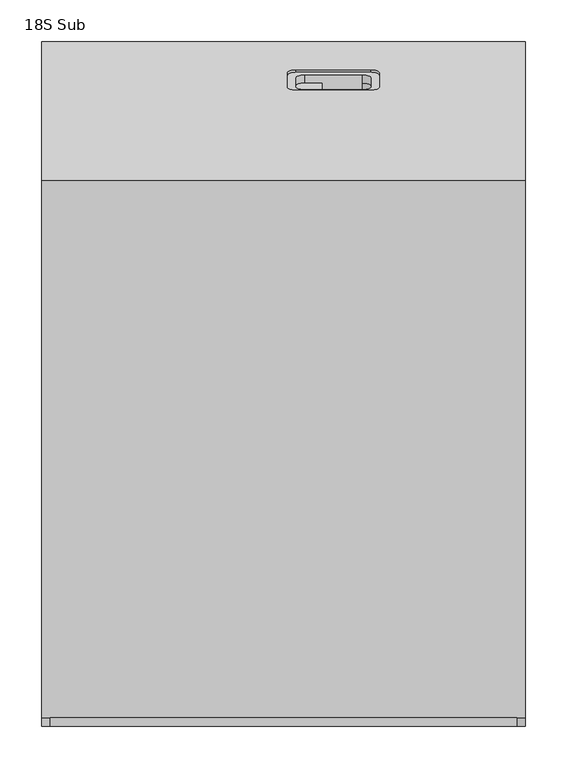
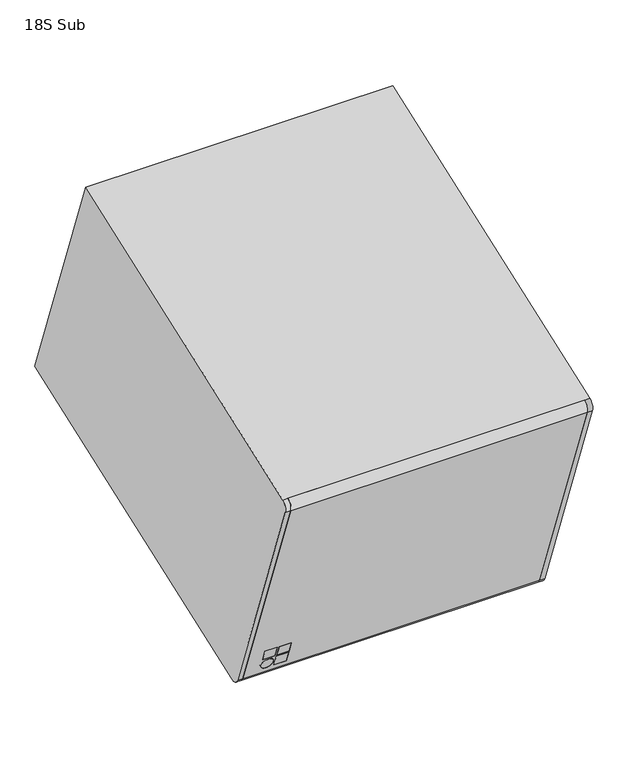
"""IFC4 building model written with IfcOpenShell, lengths in millimetres: proxy geometry, d&b xS-Series 18S Subwoofer : 18S Sub."""

from ifc_helpers import new_model, si_unit, point, frame, frame_2d, origin, place, context, project, spatial, polyline, circle_curve, trimmed, segment, composite_curve, outline, extrude, source, transform, mapped, element, save
from ifc_brep_helpers import plane_surface, cylinder_surface, revolved_surface, advanced_brep


def proxy_18s_sub_96205f55(model_context):
    return source(origin(), model_context, "Body", "SolidModel", [
        extrude(outline(composite_curve([segment(trimmed(circle_curve(frame_2d((0.0, -18.25)), 18.25), [point((0.0, -36.5))], [point((0.0, 0.0))], False, "CARTESIAN"), True, "CONTINUOUS"), segment(trimmed(circle_curve(frame_2d((0.0, -18.25)), 18.25), [point((0.0, 0.0))], [point((0.0, -36.5))], False, "CARTESIAN"), True, "CONTINUOUS")], self_intersect=False)), frame((-238.25, 372.96461, -127.1038933), z_axis=(0.0, -0.34202014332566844, 0.9396926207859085), x_axis=(0.0, 0.9396926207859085, 0.34202014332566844)), (0.0, 0.0, 1.0), 3.0),
        extrude(outline(composite_curve([segment(trimmed(circle_curve(frame_2d((0.0, -458.25)), 18.25), [point((0.0, -476.5))], [point((0.0, -440.0))], False, "CARTESIAN"), True, "CONTINUOUS"), segment(trimmed(circle_curve(frame_2d((0.0, -458.25)), 18.25), [point((0.0, -440.0))], [point((0.0, -476.5))], False, "CARTESIAN"), True, "CONTINUOUS")], self_intersect=False)), frame((-238.25, 372.96461, -127.1038933), z_axis=(0.0, -0.34202014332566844, 0.9396926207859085), x_axis=(0.0, 0.9396926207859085, 0.34202014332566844)), (0.0, 0.0, 1.0), 3.0),
        extrude(outline(composite_curve([segment(trimmed(circle_curve(frame_2d((-595.0, -18.25)), 18.25), [point((-595.0, -36.5))], [point((-595.0, 0.0))], False, "CARTESIAN"), True, "CONTINUOUS"), segment(trimmed(circle_curve(frame_2d((-595.0, -18.25)), 18.25), [point((-595.0, 0.0))], [point((-595.0, -36.5))], False, "CARTESIAN"), True, "CONTINUOUS")], self_intersect=False)), frame((-238.25, 372.96461, -127.1038933), z_axis=(0.0, -0.34202014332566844, 0.9396926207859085), x_axis=(0.0, 0.9396926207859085, 0.34202014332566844)), (0.0, 0.0, 1.0), 3.0),
        extrude(outline(composite_curve([segment(trimmed(circle_curve(frame_2d((-595.0, -458.25)), 18.25), [point((-595.0, -476.5))], [point((-595.0, -440.0))], False, "CARTESIAN"), True, "CONTINUOUS"), segment(trimmed(circle_curve(frame_2d((-595.0, -458.25)), 18.25), [point((-595.0, -440.0))], [point((-595.0, -476.5))], False, "CARTESIAN"), True, "CONTINUOUS")], self_intersect=False)), frame((-238.25, 372.96461, -127.1038933), z_axis=(0.0, -0.34202014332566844, 0.9396926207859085), x_axis=(0.0, 0.9396926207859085, 0.34202014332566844)), (0.0, 0.0, 1.0), 3.0),
        advanced_brep(
        [(280.0, -253.3888823, -335.9227208), (280.0, -234.1631909, -344.8878079), (280.0, -235.8732916, -340.1893448), (280.0, -248.6904192, -334.21262), (280.0, -405.3356449, 96.1666003), (280.0, -399.3589201, 108.9837279), (280.0, -401.0690208, 113.682191), (280.0, -410.034108, 94.4564996), (-280.0, -253.3888823, -335.9227208), (-280.0, -410.034108, 94.4564996), (-280.0, -401.0690208, 113.682191), (-280.0, -399.3589201, 108.9837279), (-280.0, -405.3356449, 96.1666003), (-280.0, -248.6904192, -334.21262), (-280.0, -235.8732916, -340.1893448), (-280.0, -234.1631909, -344.8878079), (-226.6666667, -273.9100909, -279.5411635), (-226.6666667, -265.9296209, -301.4673247), (-250.0, -265.9296209, -301.4673247), (-250.0, -273.9100909, -279.5411635), (-200.0, -273.9100909, -279.5411635), (-200.0, -265.9296209, -301.4673247), (-223.3333333, -265.9296209, -301.4673247), (-223.3333333, -273.9100909, -279.5411635), (-200.0, -264.7895538, -304.5996334), (-200.0, -256.8090837, -326.5257945), (-223.3333333, -256.8090837, -326.5257945), (-223.3333333, -264.7895538, -304.5996334), (-238.3333333, -256.8090837, -326.5257945), (-238.3333333, -264.7895538, -304.5996334), (-226.6666667, -261.2311578, -299.7572239), (-226.6666667, -269.2116278, -277.8310628), (-250.0, -269.2116278, -277.8310628), (-250.0, -261.2311578, -299.7572239), (-200.0, -261.2311578, -299.7572239), (-200.0, -269.2116278, -277.8310628), (-223.3333333, -269.2116278, -277.8310628), (-223.3333333, -261.2311578, -299.7572239), (-200.0, -252.1106206, -324.8156938), (-200.0, -260.0910907, -302.8895327), (-223.3333333, -260.0910907, -302.8895327), (-223.3333333, -252.1106206, -324.8156938), (-238.3333333, -260.0910907, -302.8895327), (-238.3333333, -252.1106206, -324.8156938)],
        [
            (0, 1, circle_curve(frame((280.0, -239.293493, -330.7924186), z_axis=(1.0, 0.0, 0.0), x_axis=(0.0, 0.9396926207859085, 0.34202014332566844)), 15.0)),
            (1, 2),
            (2, 3, circle_curve(frame((280.0, -239.293493, -330.7924186), z_axis=(-1.0, 0.0, 0.0), x_axis=(0.0, 0.9396926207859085, 0.34202014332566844)), 10.0)),
            (3, 4),
            (4, 5, circle_curve(frame((280.0, -395.9387186, 99.5868017), z_axis=(-1.0, 0.0, 0.0), x_axis=(0.0, 0.9396926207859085, 0.34202014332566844)), 10.0)),
            (5, 6),
            (6, 7, circle_curve(frame((280.0, -395.9387186, 99.5868017), z_axis=(1.0, 0.0, 0.0), x_axis=(0.0, 0.9396926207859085, 0.34202014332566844)), 15.0)),
            (7, 0),
            (8, 9),
            (9, 10, circle_curve(frame((-280.0, -395.9387186, 99.5868017), z_axis=(-1.0, 0.0, 0.0), x_axis=(0.0, 0.9396926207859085, 0.34202014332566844)), 15.0)),
            (10, 11),
            (11, 12, circle_curve(frame((-280.0, -395.9387186, 99.5868017), z_axis=(1.0, 0.0, 0.0), x_axis=(0.0, 0.9396926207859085, 0.34202014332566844)), 10.0)),
            (12, 13),
            (13, 14, circle_curve(frame((-280.0, -239.293493, -330.7924186), z_axis=(1.0, 0.0, 0.0), x_axis=(0.0, 0.9396926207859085, 0.34202014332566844)), 10.0)),
            (14, 15),
            (15, 8, circle_curve(frame((-280.0, -239.293493, -330.7924186), z_axis=(-1.0, 0.0, 0.0), x_axis=(0.0, 0.9396926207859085, 0.34202014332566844)), 15.0)),
            (6, 10),
            (9, 7),
            (8, 0),
            (16, 17),
            (17, 18),
            (18, 19),
            (19, 16),
            (20, 21),
            (21, 22),
            (22, 23),
            (23, 20),
            (24, 25),
            (25, 26),
            (26, 27),
            (27, 24),
            (28, 29, circle_curve(frame((-238.3333333, -260.7993188, -315.562714), z_axis=(0.0, 0.939692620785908, 0.34202014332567), x_axis=(0.0, -0.34202014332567, 0.939692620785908)), 11.6666667)),
            (29, 28, circle_curve(frame((-238.3333333, -260.7993188, -315.562714), z_axis=(0.0, 0.939692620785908, 0.34202014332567), x_axis=(0.0, -0.34202014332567, 0.939692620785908)), 11.6666667)),
            (15, 1),
            (14, 2),
            (13, 3),
            (12, 4),
            (30, 31),
            (31, 32),
            (32, 33),
            (33, 30),
            (34, 35),
            (35, 36),
            (36, 37),
            (37, 34),
            (38, 39),
            (39, 40),
            (40, 41),
            (41, 38),
            (42, 43, circle_curve(frame((-238.3333333, -256.1008557, -313.8526133), z_axis=(0.0, -0.939692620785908, -0.34202014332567), x_axis=(0.0, -0.34202014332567, 0.939692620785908)), 11.6666667)),
            (43, 42, circle_curve(frame((-238.3333333, -256.1008557, -313.8526133), z_axis=(0.0, -0.939692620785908, -0.34202014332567), x_axis=(0.0, -0.34202014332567, 0.939692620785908)), 11.6666667)),
            (11, 5),
            (16, 31),
            (30, 17),
            (33, 18),
            (32, 19),
            (20, 35),
            (34, 21),
            (37, 22),
            (36, 23),
            (24, 39),
            (38, 25),
            (41, 26),
            (40, 27),
            (28, 43),
            (42, 29),
        ],
        [
            plane_surface(frame((280.0, -225.1981037, -325.6621165), z_axis=(1.0, 0.0, 0.0), x_axis=(0.0, -0.34202014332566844, 0.9396926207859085))),
            plane_surface(frame((-280.0, -225.1981037, -325.6621165), z_axis=(-1.0, 0.0, 0.0), x_axis=(0.0, 0.34202014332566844, -0.9396926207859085))),
            cylinder_surface(frame((-280.0, -395.9387186, 99.5868017), z_axis=(1.0, 0.0, 0.0), x_axis=(0.0, 0.9396926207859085, 0.34202014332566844)), 15.0),
            plane_surface(frame((280.0, -410.034108, 94.4564996), z_axis=(0.0, -0.9396926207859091, -0.3420201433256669), x_axis=(-1.0, 0.0, 0.0))),
            cylinder_surface(frame((-280.0, -239.293493, -330.7924186), z_axis=(1.0, 0.0, 0.0), x_axis=(0.0, 0.9396926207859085, 0.34202014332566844)), 15.0),
            plane_surface(frame((280.0, -234.1631909, -344.8878079), z_axis=(0.0, 0.9396926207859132, 0.3420201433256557), x_axis=(-1.0, 0.0, 0.0))),
            revolved_surface(polyline([(-280.0, -229.89656679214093, -327.3722171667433), (280.0, -229.89656679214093, -327.3722171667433)]), (-280.0, -239.293493, -330.7924186), (-1.0, 0.0, 0.0)),
            plane_surface(frame((280.0, -248.6904192, -334.21262), z_axis=(0.0, 0.9396926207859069, 0.34202014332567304), x_axis=(-1.0, 0.0, 0.0))),
            revolved_surface(polyline([(-280.0, -386.5417923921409, 103.00700313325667), (280.0, -386.5417923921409, 103.00700313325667)]), (-280.0, -395.9387186, 99.5868017), (-1.0, 0.0, 0.0)),
            plane_surface(frame((280.0, -399.3589201, 108.9837279), z_axis=(0.0, 0.9396926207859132, 0.3420201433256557), x_axis=(-1.0, 0.0, 0.0))),
            plane_surface(frame((-226.6666667, -265.9296209, -301.4673247), z_axis=(-1.0, 0.0, 0.0), x_axis=(0.0, 0.9396926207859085, 0.34202014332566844))),
            plane_surface(frame((-250.0, -265.9296209, -301.4673247), z_axis=(0.0, -0.34202014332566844, 0.9396926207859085), x_axis=(0.0, 0.9396926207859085, 0.34202014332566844))),
            plane_surface(frame((-250.0, -273.9100909, -279.5411635), z_axis=(1.0, 0.0, 0.0), x_axis=(0.0, 0.9396926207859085, 0.34202014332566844))),
            plane_surface(frame((-226.6666667, -273.9100909, -279.5411635), z_axis=(0.0, 0.34202014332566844, -0.9396926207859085), x_axis=(0.0, 0.9396926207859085, 0.34202014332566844))),
            plane_surface(frame((-200.0, -265.9296209, -301.4673247), z_axis=(-1.0, 0.0, 0.0), x_axis=(0.0, 0.9396926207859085, 0.34202014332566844))),
            plane_surface(frame((-223.3333333, -265.9296209, -301.4673247), z_axis=(0.0, -0.34202014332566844, 0.9396926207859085), x_axis=(0.0, 0.9396926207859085, 0.34202014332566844))),
            plane_surface(frame((-223.3333333, -273.9100909, -279.5411635), z_axis=(1.0, 0.0, 0.0), x_axis=(0.0, 0.9396926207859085, 0.34202014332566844))),
            plane_surface(frame((-200.0, -273.9100909, -279.5411635), z_axis=(0.0, 0.34202014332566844, -0.9396926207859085), x_axis=(0.0, 0.9396926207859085, 0.34202014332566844))),
            plane_surface(frame((-200.0, -256.8090837, -326.5257945), z_axis=(-1.0, 0.0, 0.0), x_axis=(0.0, 0.9396926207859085, 0.34202014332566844))),
            plane_surface(frame((-223.3333333, -256.8090837, -326.5257945), z_axis=(0.0, -0.34202014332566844, 0.9396926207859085), x_axis=(0.0, 0.9396926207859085, 0.34202014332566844))),
            plane_surface(frame((-223.3333333, -264.7895538, -304.5996334), z_axis=(1.0, 0.0, 0.0), x_axis=(0.0, 0.9396926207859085, 0.34202014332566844))),
            plane_surface(frame((-200.0, -264.7895538, -304.5996334), z_axis=(0.0, 0.34202014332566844, -0.9396926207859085), x_axis=(0.0, 0.9396926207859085, 0.34202014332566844))),
            revolved_surface(polyline([(-238.3333333, -264.7895538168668, -304.5996333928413), (-238.3333333, -260.09109061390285, -302.8895326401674)]), (-238.3333333, -260.7993188, -315.562714), (0.0, -0.939692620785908, -0.34202014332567)),
        ],
        [
            (0, [[1, 2, 3, 4, 5, 6, 7, 8]]),
            (1, [[9, 10, 11, 12, 13, 14, 15, 16]]),
            (2, [[-7, 17, -10, 18]]),
            (3, [[-8, -18, -9, 19], [20, 21, 22, 23], [24, 25, 26, 27], [28, 29, 30, 31], [32, 33]]),
            (4, [[-1, -19, -16, 34]]),
            (5, [[-2, -34, -15, 35]]),
            (6, [[-3, -35, -14, 36]]),
            (7, [[-4, -36, -13, 37], [38, 39, 40, 41], [42, 43, 44, 45], [46, 47, 48, 49], [50, 51]]),
            (8, [[-5, -37, -12, 52]]),
            (9, [[-6, -52, -11, -17]]),
            (10, [[53, -38, 54, -20]]),
            (11, [[-54, -41, 55, -21]]),
            (12, [[-55, -40, 56, -22]]),
            (13, [[-53, -23, -56, -39]]),
            (14, [[57, -42, 58, -24]]),
            (15, [[-58, -45, 59, -25]]),
            (16, [[-59, -44, 60, -26]]),
            (17, [[-57, -27, -60, -43]]),
            (18, [[61, -46, 62, -28]]),
            (19, [[-62, -49, 63, -29]]),
            (20, [[-63, -48, 64, -30]]),
            (21, [[-61, -31, -64, -47]]),
            (22, [[65, -50, 66, -32]]),
            (22, [[-65, -33, -66, -51]]),
        ],
    ),
        extrude(outline(polyline([(0.0, -23.3333333), (0.0, 0.0), (5.0, 0.0), (5.0, -23.3333333), (0.0, -23.3333333)])), frame((-250.0, -265.9296209, -301.4673247), z_axis=(0.0, -0.34202014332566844, 0.9396926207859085), x_axis=(0.0, 0.9396926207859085, 0.34202014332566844)), (0.0, 0.0, 1.0), 23.3333333),
        extrude(outline(polyline([(0.0, -23.3333333), (0.0, 0.0), (5.0, 0.0), (5.0, -23.3333333), (0.0, -23.3333333)])), frame((-223.3333333, -265.9296209, -301.4673247), z_axis=(0.0, -0.34202014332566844, 0.9396926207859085), x_axis=(0.0, 0.9396926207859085, 0.34202014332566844)), (0.0, 0.0, 1.0), 23.3333333),
        extrude(outline(polyline([(0.0, -23.3333333), (0.0, 0.0), (5.0, 0.0), (5.0, -23.3333333), (0.0, -23.3333333)])), frame((-223.3333333, -256.8090837, -326.5257945), z_axis=(0.0, -0.34202014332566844, 0.9396926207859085), x_axis=(0.0, 0.9396926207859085, 0.34202014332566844)), (0.0, 0.0, 1.0), 23.3333333),
        extrude(outline(composite_curve([segment(trimmed(circle_curve(frame_2d((-17.5, -38.3333333)), 11.6666667), [point((-17.5, -50.0))], [point((-17.5, -26.6666667))], False, "CARTESIAN"), True, "CONTINUOUS"), segment(trimmed(circle_curve(frame_2d((-17.5, -38.3333333)), 11.6666667), [point((-17.5, -26.6666667))], [point((-17.5, -50.0))], False, "CARTESIAN"), True, "CONTINUOUS")], self_intersect=False)), frame((-255.8333333, -273.9100909, -279.5411635), z_axis=(0.0, 0.939692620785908, 0.34202014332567), x_axis=(-1.0, 0.0, 0.0)), (0.0, 0.0, 1.0), 5.0),
        advanced_brep(
        [(280.0, -234.1631909, -344.8878079), (-280.0, -234.1631909, -344.8878079), (-290.0, -234.1631909, -344.8878079), (-290.0, 409.5262544, -110.6040097), (290.0, 409.5262544, -110.6040097), (290.0, -234.1631909, -344.8878079), (290.0, 242.6204244, 347.9659892), (-290.0, 242.6204244, 347.9659892), (105.0, 375.6662602, -17.5744403), (115.0, 372.2460588, -8.1775141), (115.0, 355.1450516, 38.807117), (105.0, 351.7248502, 48.2040432), (15.0, 351.7248502, 48.2040432), (5.0, 355.1450516, 38.807117), (5.0, 372.2460588, -8.1775141), (15.0, 375.6662602, -17.5744403), (-280.0, -401.0690208, 113.682191), (280.0, -401.0690208, 113.682191), (290.0, -401.0690208, 113.682191), (-290.0, -401.0690208, 113.682191), (-280.0, -399.3589201, 108.9837279), (280.0, -399.3589201, 108.9837279), (-280.0, -405.3356449, 96.1666003), (280.0, -405.3356449, 96.1666003), (-280.0, -248.6904192, -334.21262), (280.0, -248.6904192, -334.21262), (-280.0, -235.8732916, -340.1893448), (280.0, -235.8732916, -340.1893448), (280.0, -253.3888823, -335.9227208), (280.0, -410.034108, 94.4564996), (290.0, -410.034108, 94.4564996), (290.0, -253.3888823, -335.9227208), (-280.0, -410.034108, 94.4564996), (-280.0, -253.3888823, -335.9227208), (-290.0, -253.3888823, -335.9227208), (-290.0, -410.034108, 94.4564996), (115.0, 369.4269809, -9.2035745), (105.0, 372.8471823, -18.6005007), (15.0, 372.8471823, -18.6005007), (5.0, 369.4269809, -9.2035745), (5.0, 352.3259737, 37.7810565), (15.0, 348.9057723, 47.1779827), (105.0, 348.9057723, 47.1779827), (115.0, 352.3259737, 37.7810565), (95.0, 352.3259737, 37.7810565), (25.0, 352.3259737, 37.7810565), (15.0, 355.7461752, 28.3841303), (15.0, 366.0067795, 0.1933517), (25.0, 369.4269809, -9.2035745), (95.0, 369.4269809, -9.2035745), (105.0, 366.0067795, 0.1933517), (105.0, 355.7461752, 28.3841303), (25.0, 360.0300547, -12.6237759), (15.0, 356.6098533, -3.2268497), (15.0, 346.349249, 24.9639289), (25.0, 342.9290475, 34.3608551), (46.2039304, 342.9290475, 34.3608551), (46.2039304, 360.0300547, -12.6237759), (95.0, 360.0300547, -12.6237759), (105.0, 356.6098533, -3.2268497), (95.0, 342.9290475, 34.3608551), (105.0, 346.349249, 24.9639289), (46.2039304, 310.0398058, 22.3901501), (95.0, 310.0398058, 22.3901501), (105.0, 313.4600072, 12.9932239), (105.0, 323.7206115, -15.1975547), (95.0, 327.140813, -24.594481), (46.2039304, 327.140813, -24.594481)],
        [
            (0, 1),
            (1, 2),
            (2, 3),
            (3, 4),
            (4, 5),
            (5, 0),
            (6, 4),
            (3, 7),
            (7, 6),
            (8, 9, circle_curve(frame((105.0, 372.2460588, -8.1775141), z_axis=(0.0, -0.9396926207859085, -0.34202014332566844), x_axis=(-1.0, 0.0, 0.0)), 10.0)),
            (9, 10),
            (10, 11, circle_curve(frame((105.0, 355.1450516, 38.807117), z_axis=(0.0, -0.9396926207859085, -0.34202014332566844), x_axis=(-1.0, 0.0, 0.0)), 10.0)),
            (11, 12),
            (12, 13, circle_curve(frame((15.0, 355.1450516, 38.807117), z_axis=(0.0, -0.9396926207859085, -0.34202014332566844), x_axis=(-1.0, 0.0, 0.0)), 10.0)),
            (13, 14),
            (14, 15, circle_curve(frame((15.0, 372.2460588, -8.1775141), z_axis=(0.0, -0.9396926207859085, -0.34202014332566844), x_axis=(-1.0, 0.0, 0.0)), 10.0)),
            (15, 8),
            (16, 17),
            (17, 18),
            (18, 6),
            (7, 19),
            (19, 16),
            (16, 20),
            (20, 21),
            (21, 17),
            (20, 22, circle_curve(frame((-280.0, -395.9387186, 99.5868017), z_axis=(1.0, 0.0, 0.0), x_axis=(0.0, 0.9396926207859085, 0.34202014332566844)), 10.0)),
            (22, 23),
            (23, 21, circle_curve(frame((280.0, -395.9387186, 99.5868017), z_axis=(-1.0, 0.0, 0.0), x_axis=(0.0, 0.9396926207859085, 0.34202014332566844)), 10.0)),
            (22, 24),
            (24, 25),
            (25, 23),
            (24, 26, circle_curve(frame((-280.0, -239.293493, -330.7924186), z_axis=(1.0, 0.0, 0.0), x_axis=(0.0, 0.9396926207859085, 0.34202014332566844)), 10.0)),
            (26, 27),
            (27, 25, circle_curve(frame((280.0, -239.293493, -330.7924186), z_axis=(-1.0, 0.0, 0.0), x_axis=(0.0, 0.9396926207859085, 0.34202014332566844)), 10.0)),
            (0, 27),
            (26, 1),
            (0, 28, circle_curve(frame((280.0, -239.293493, -330.7924186), z_axis=(-1.0, 0.0, 0.0), x_axis=(0.0, 0.9396926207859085, 0.34202014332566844)), 15.0)),
            (28, 29),
            (29, 17, circle_curve(frame((280.0, -395.9387186, 99.5868017), z_axis=(-1.0, 0.0, 0.0), x_axis=(0.0, 0.9396926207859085, 0.34202014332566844)), 15.0)),
            (18, 30, circle_curve(frame((290.0, -395.9387186, 99.5868017), z_axis=(1.0, 0.0, 0.0), x_axis=(0.0, 0.9396926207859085, 0.34202014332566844)), 15.0)),
            (30, 31),
            (31, 5, circle_curve(frame((290.0, -239.293493, -330.7924186), z_axis=(1.0, 0.0, 0.0), x_axis=(0.0, 0.9396926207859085, 0.34202014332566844)), 15.0)),
            (29, 30),
            (28, 31),
            (16, 32, circle_curve(frame((-280.0, -395.9387186, 99.5868017), z_axis=(1.0, 0.0, 0.0), x_axis=(0.0, 0.9396926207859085, 0.34202014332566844)), 15.0)),
            (32, 33),
            (33, 1, circle_curve(frame((-280.0, -239.293493, -330.7924186), z_axis=(1.0, 0.0, 0.0), x_axis=(0.0, 0.9396926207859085, 0.34202014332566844)), 15.0)),
            (2, 34, circle_curve(frame((-290.0, -239.293493, -330.7924186), z_axis=(-1.0, 0.0, 0.0), x_axis=(0.0, 0.9396926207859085, 0.34202014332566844)), 15.0)),
            (34, 35),
            (35, 19, circle_curve(frame((-290.0, -395.9387186, 99.5868017), z_axis=(-1.0, 0.0, 0.0), x_axis=(0.0, 0.9396926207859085, 0.34202014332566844)), 15.0)),
            (35, 32),
            (34, 33),
            (36, 37, circle_curve(frame((105.0, 369.4269809, -9.2035745), z_axis=(0.0, 0.9396926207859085, 0.34202014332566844), x_axis=(-1.0, 0.0, 0.0)), 10.0)),
            (37, 38),
            (38, 39, circle_curve(frame((15.0, 369.4269809, -9.2035745), z_axis=(0.0, 0.9396926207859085, 0.34202014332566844), x_axis=(-1.0, 0.0, 0.0)), 10.0)),
            (39, 40),
            (40, 41, circle_curve(frame((15.0, 352.3259737, 37.7810565), z_axis=(0.0, 0.9396926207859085, 0.34202014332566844), x_axis=(-1.0, 0.0, 0.0)), 10.0)),
            (41, 42),
            (42, 43, circle_curve(frame((105.0, 352.3259737, 37.7810565), z_axis=(0.0, 0.9396926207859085, 0.34202014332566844), x_axis=(-1.0, 0.0, 0.0)), 10.0)),
            (43, 36),
            (44, 45),
            (45, 46, circle_curve(frame((25.0, 355.7461752, 28.3841303), z_axis=(0.0, -0.9396926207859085, -0.34202014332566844), x_axis=(-1.0, 0.0, 0.0)), 10.0)),
            (46, 47),
            (47, 48, circle_curve(frame((25.0, 366.0067795, 0.1933517), z_axis=(0.0, -0.9396926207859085, -0.34202014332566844), x_axis=(-1.0, 0.0, 0.0)), 10.0)),
            (48, 49),
            (49, 50, circle_curve(frame((95.0, 366.0067795, 0.1933517), z_axis=(0.0, -0.9396926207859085, -0.34202014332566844), x_axis=(-1.0, 0.0, 0.0)), 10.0)),
            (50, 51),
            (51, 44, circle_curve(frame((95.0, 355.7461752, 28.3841303), z_axis=(0.0, -0.9396926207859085, -0.34202014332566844), x_axis=(-1.0, 0.0, 0.0)), 10.0)),
            (36, 9),
            (8, 37),
            (15, 38),
            (14, 39),
            (13, 40),
            (12, 41),
            (11, 42),
            (10, 43),
            (52, 53, circle_curve(frame((25.0, 356.6098533, -3.2268497), z_axis=(0.0, 0.9396926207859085, 0.34202014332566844), x_axis=(-1.0, 0.0, 0.0)), 10.0)),
            (53, 54),
            (54, 55, circle_curve(frame((25.0, 346.349249, 24.9639289), z_axis=(0.0, 0.9396926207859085, 0.34202014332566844), x_axis=(-1.0, 0.0, 0.0)), 10.0)),
            (55, 56),
            (56, 57),
            (57, 52),
            (54, 46),
            (45, 55),
            (53, 47),
            (52, 48),
            (49, 58),
            (58, 59, circle_curve(frame((95.0, 356.6098533, -3.2268497), z_axis=(0.0, -0.9396926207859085, -0.34202014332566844), x_axis=(-1.0, 0.0, 0.0)), 10.0)),
            (59, 50),
            (60, 44),
            (51, 61),
            (61, 60, circle_curve(frame((95.0, 346.349249, 24.9639289), z_axis=(0.0, -0.9396926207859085, -0.34202014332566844), x_axis=(-1.0, 0.0, 0.0)), 10.0)),
            (62, 63),
            (63, 64, circle_curve(frame((95.0, 313.4600072, 12.9932239), z_axis=(0.0, 0.9396926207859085, 0.34202014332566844), x_axis=(-1.0, 0.0, 0.0)), 10.0)),
            (64, 65),
            (65, 66, circle_curve(frame((95.0, 323.7206115, -15.1975547), z_axis=(0.0, 0.9396926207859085, 0.34202014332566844), x_axis=(-1.0, 0.0, 0.0)), 10.0)),
            (66, 67),
            (67, 62),
            (67, 57),
            (56, 62),
            (60, 63),
            (61, 64),
            (59, 65),
            (58, 66),
        ],
        [
            plane_surface(frame((280.0, -234.1631909, -344.8878079), z_axis=(0.0, 0.34202014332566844, -0.9396926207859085), x_axis=(-1.0, 0.0, 0.0))),
            plane_surface(frame((280.0, 409.5262544, -110.6040097), z_axis=(0.0, 0.9396926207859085, 0.34202014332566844), x_axis=(-1.0, 0.0, 0.0))),
            plane_surface(frame((280.0, 242.6204244, 347.9659892), z_axis=(0.0, -0.34202014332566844, 0.9396926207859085), x_axis=(-1.0, 0.0, 0.0))),
            plane_surface(frame((280.0, -401.0690208, 113.682191), z_axis=(0.0, -0.9396926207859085, -0.34202014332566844), x_axis=(-1.0, 0.0, 0.0))),
            cylinder_surface(frame((-280.0, -395.9387186, 99.5868017), z_axis=(1.0, 0.0, 0.0), x_axis=(0.0, 0.9396926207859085, 0.34202014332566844)), 10.0),
            plane_surface(frame((280.0, -405.3356449, 96.1666003), z_axis=(0.0, -0.9396926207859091, -0.3420201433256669), x_axis=(-1.0, 0.0, 0.0))),
            cylinder_surface(frame((-280.0, -239.293493, -330.7924186), z_axis=(1.0, 0.0, 0.0), x_axis=(0.0, 0.9396926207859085, 0.34202014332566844)), 10.0),
            plane_surface(frame((280.0, -235.8732916, -340.1893448), z_axis=(0.0, -0.9396926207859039, -0.34202014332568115), x_axis=(-1.0, 0.0, 0.0))),
            plane_surface(frame((280.0, 166.0354758, 320.0913475), z_axis=(-1.0, 0.0, 0.0), x_axis=(0.0, 0.9396926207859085, 0.34202014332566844))),
            plane_surface(frame((290.0, 166.0354758, 320.0913475), z_axis=(1.0, 0.0, 0.0), x_axis=(0.0, -0.9396926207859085, -0.34202014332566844))),
            cylinder_surface(frame((290.0, -395.9387186, 99.5868017), z_axis=(-1.0, 0.0, 0.0), x_axis=(0.0, 0.9396926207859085, 0.34202014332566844)), 15.0),
            plane_surface(frame((280.0, -253.3888823, -335.9227208), z_axis=(0.0, -0.9396926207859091, -0.3420201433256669), x_axis=(1.0, 0.0, 0.0))),
            cylinder_surface(frame((290.0, -239.293493, -330.7924186), z_axis=(-1.0, 0.0, 0.0), x_axis=(0.0, 0.9396926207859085, 0.34202014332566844)), 15.0),
            plane_surface(frame((-280.0, -381.8433293, 104.7171039), z_axis=(1.0, 0.0, 0.0), x_axis=(0.0, -0.34202014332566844, 0.9396926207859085))),
            plane_surface(frame((-290.0, -381.8433293, 104.7171039), z_axis=(-1.0, 0.0, 0.0), x_axis=(0.0, 0.34202014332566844, -0.9396926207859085))),
            cylinder_surface(frame((-290.0, -395.9387186, 99.5868017), z_axis=(1.0, 0.0, 0.0), x_axis=(0.0, 0.9396926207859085, 0.34202014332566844)), 15.0),
            plane_surface(frame((-280.0, -410.034108, 94.4564996), z_axis=(0.0, -0.9396926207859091, -0.3420201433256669), x_axis=(-1.0, 0.0, 0.0))),
            cylinder_surface(frame((-290.0, -239.293493, -330.7924186), z_axis=(1.0, 0.0, 0.0), x_axis=(0.0, 0.9396926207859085, 0.34202014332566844)), 15.0),
            plane_surface(frame((95.0, 369.4269809, -9.2035745), z_axis=(0.0, 0.9396926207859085, 0.34202014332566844), x_axis=(0.0, 0.34202014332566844, -0.9396926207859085))),
            revolved_surface(polyline([(95.0, 372.2460587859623, -8.177514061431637), (95.0, 369.42698087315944, -9.203574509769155)]), (105.0, 369.4269809, -9.2035745), (0.0, 0.9396926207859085, 0.34202014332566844)),
            plane_surface(frame((105.0, 375.6662602, -17.5744403), z_axis=(0.0, -0.34202014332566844, 0.9396926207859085), x_axis=(0.0, -0.9396926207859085, -0.34202014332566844))),
            revolved_surface(polyline([(5.0, 372.2460587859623, -8.177514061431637), (5.0, 369.42698087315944, -9.203574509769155)]), (15.0, 369.4269809, -9.2035745), (0.0, 0.9396926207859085, 0.34202014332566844)),
            plane_surface(frame((5.0, 372.2460588, -8.1775141), z_axis=(1.0, 0.0, 0.0), x_axis=(0.0, -0.9396926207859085, -0.34202014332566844))),
            revolved_surface(polyline([(5.0, 355.14505164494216, 38.80711696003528), (5.0, 352.3259737, 37.7810565)]), (15.0, 352.3259737, 37.7810565), (0.0, 0.9396926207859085, 0.34202014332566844)),
            plane_surface(frame((15.0, 351.7248502, 48.2040432), z_axis=(0.0, 0.34202014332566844, -0.9396926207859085), x_axis=(0.0, -0.9396926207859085, -0.34202014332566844))),
            revolved_surface(polyline([(95.0, 355.14505164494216, 38.80711696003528), (95.0, 352.3259737, 37.7810565)]), (105.0, 352.3259737, 37.7810565), (0.0, 0.9396926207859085, 0.34202014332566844)),
            plane_surface(frame((115.0, 355.1450516, 38.807117), z_axis=(-1.0, 0.0, 0.0), x_axis=(0.0, -0.9396926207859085, -0.34202014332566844))),
            plane_surface(frame((85.0, 346.349249, 24.9639289), z_axis=(0.0, 0.9396926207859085, 0.34202014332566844), x_axis=(0.0, 0.34202014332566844, -0.9396926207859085))),
            revolved_surface(polyline([(15.0, 355.7461751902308, 28.384130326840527), (15.0, 346.3492489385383, 24.963928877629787)]), (25.0, 346.349249, 24.9639289), (0.0, 0.9396926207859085, 0.34202014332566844)),
            plane_surface(frame((15.0, 366.0067795, 0.1933517), z_axis=(1.0, 0.0, 0.0), x_axis=(0.0, -0.9396926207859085, -0.34202014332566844))),
            revolved_surface(polyline([(15.0, 366.0067794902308, 0.19335172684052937), (15.0, 356.60985327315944, -3.226849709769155)]), (25.0, 356.6098533, -3.2268497), (0.0, 0.9396926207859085, 0.34202014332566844)),
            revolved_surface(polyline([(85.0, 366.0067794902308, 0.19335172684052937), (85.0, 356.60985327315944, -3.226849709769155)]), (95.0, 356.6098533, -3.2268497), (0.0, 0.9396926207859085, 0.34202014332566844)),
            revolved_surface(polyline([(85.0, 355.7461751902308, 28.384130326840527), (85.0, 346.3492489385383, 24.963928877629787)]), (95.0, 346.349249, 24.9639289), (0.0, 0.9396926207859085, 0.34202014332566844)),
            plane_surface(frame((95.0, 310.0398058, 22.3901501), z_axis=(0.0, 0.9396926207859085, 0.34202014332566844), x_axis=(-1.0, 0.0, 0.0))),
            plane_surface(frame((46.2039304, 360.0300547, -12.6237759), z_axis=(1.0, 0.0, 0.0), x_axis=(0.0, -0.9396926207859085, -0.34202014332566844))),
            plane_surface(frame((46.2039304, 342.9290475, 34.3608551), z_axis=(0.0, 0.34202014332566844, -0.9396926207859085), x_axis=(0.0, -0.9396926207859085, -0.34202014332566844))),
            revolved_surface(polyline([(85.0, 346.34924898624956, 24.96392893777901), (85.0, 313.4600072, 12.9932239)]), (95.0, 313.4600072, 12.9932239), (0.0, 0.9396926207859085, 0.34202014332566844)),
            plane_surface(frame((105.0, 346.349249, 24.9639289), z_axis=(-1.0, 0.0, 0.0), x_axis=(0.0, -0.9396926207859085, -0.34202014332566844))),
            revolved_surface(polyline([(85.0, 356.6098532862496, -3.2268496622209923), (85.0, 323.7206115, -15.1975547)]), (95.0, 323.7206115, -15.1975547), (0.0, 0.9396926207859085, 0.34202014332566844)),
            plane_surface(frame((95.0, 360.0300547, -12.6237759), z_axis=(0.0, -0.34202014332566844, 0.9396926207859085), x_axis=(0.0, -0.9396926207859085, -0.34202014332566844))),
        ],
        [
            (0, [[1, 2, 3, 4, 5, 6]]),
            (1, [[7, -4, 8, 9], [10, 11, 12, 13, 14, 15, 16, 17]]),
            (2, [[18, 19, 20, -9, 21, 22]]),
            (3, [[-18, 23, 24, 25]]),
            (4, [[-24, 26, 27, 28]]),
            (5, [[-27, 29, 30, 31]]),
            (6, [[-30, 32, 33, 34]]),
            (7, [[-1, 35, -33, 36]]),
            (8, [[37, 38, 39, -25, -28, -31, -34, -35]]),
            (9, [[40, 41, 42, -5, -7, -20]]),
            (10, [[-39, 43, -40, -19]]),
            (11, [[-38, 44, -41, -43]]),
            (12, [[-37, -6, -42, -44]]),
            (13, [[45, 46, 47, -36, -32, -29, -26, -23]]),
            (14, [[-21, -8, -3, 48, 49, 50]]),
            (15, [[-45, -22, -50, 51]]),
            (16, [[-46, -51, -49, 52]]),
            (17, [[-47, -52, -48, -2]]),
            (18, [[53, 54, 55, 56, 57, 58, 59, 60], [61, 62, 63, 64, 65, 66, 67, 68]]),
            (19, [[-53, 69, -10, 70]]),
            (20, [[-54, -70, -17, 71]]),
            (21, [[-55, -71, -16, 72]]),
            (22, [[-56, -72, -15, 73]]),
            (23, [[-57, -73, -14, 74]]),
            (24, [[-58, -74, -13, 75]]),
            (25, [[-59, -75, -12, 76]]),
            (26, [[-60, -76, -11, -69]]),
            (27, [[77, 78, 79, 80, 81, 82]]),
            (28, [[-79, 83, -62, 84]]),
            (29, [[-78, 85, -63, -83]]),
            (30, [[-77, 86, -64, -85]]),
            (31, [[87, 88, 89, -66]]),
            (32, [[90, -68, 91, 92]]),
            (33, [[93, 94, 95, 96, 97, 98]]),
            (34, [[-98, 99, -81, 100]]),
            (35, [[-93, -100, -80, -84, -61, -90, 101]]),
            (36, [[-94, -101, -92, 102]]),
            (37, [[-95, -102, -91, -67, -89, 103]]),
            (38, [[-96, -103, -88, 104]]),
            (39, [[-97, -104, -87, -65, -86, -82, -99]]),
        ],
    ),
    ])


if __name__ == "__main__":
    model = new_model("IFC4")
    model_context = context("Model", 3, world=origin())
    ifc_project = project(units=[si_unit("LENGTHUNIT", "METRE", prefix="MILLI")], contexts=[model_context])
    site = spatial("IfcSite", under=ifc_project)
    building = spatial("IfcBuilding", under=site)
    placement = place(None, origin())
    proxy_18s_sub_shape = proxy_18s_sub_96205f55(model_context)
    element("IfcBuildingElementProxy", 1, Name="d&b xS-Series 18S Subwoofer : 18S Sub", ObjectType="d&b xS-Series 18S Subwoofer : 18S Sub", at=placement, inside=building, context=model_context, shape_type="MappedRepresentation", body=[
        mapped(proxy_18s_sub_shape, transform((0.0, 0.0, 0.0), x_axis=(1.0, 0.0, 0.0), y_axis=(0.0, 1.0, 0.0), z_axis=(0.0, 0.0, 1.0))),
    ])
    save(model, "model.ifc")
